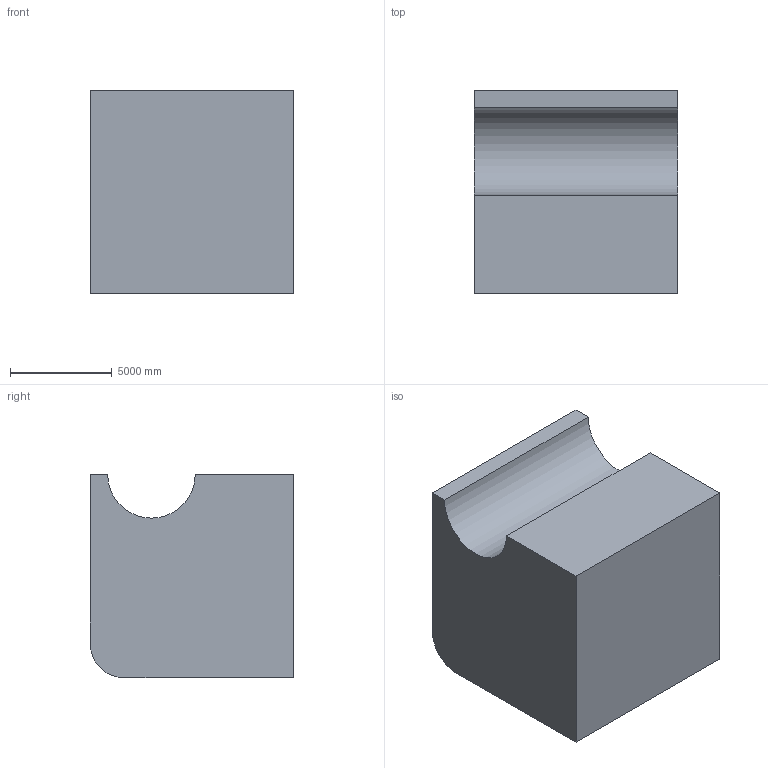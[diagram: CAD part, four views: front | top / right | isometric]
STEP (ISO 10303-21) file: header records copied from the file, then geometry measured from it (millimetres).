
FILE_DESCRIPTION (( 'STEP AP203' ), '1' );
FILE_NAME ('236.STEP', '2022-09-07T12:23:29', ( 'user' ), ( '' ), 'SwSTEP 2.0', 'SolidWorks 2021', '' );
FILE_SCHEMA (( 'CONFIG_CONTROL_DESIGN' ));
Length unit declared in the file: centimetre
Products named in the file (1): 236
Bounding box: 10000 x 10000 x 10000 mm (x, y, z)
Volume: 921180638287.2 mm3; surface area: 601756680.2 mm2
Topology: 1 solids, 1 shells, 9 faces, 21 edges, 14 vertices
Faces by surface type: plane 7, cylinder 2
Entity records: 336 total; most frequent: DIRECTION 45, CARTESIAN_POINT 45, ORIENTED_EDGE 42, EDGE_CURVE 21, LINE 17, VECTOR 17, AXIS2_PLACEMENT_3D 14, VERTEX_POINT 14
